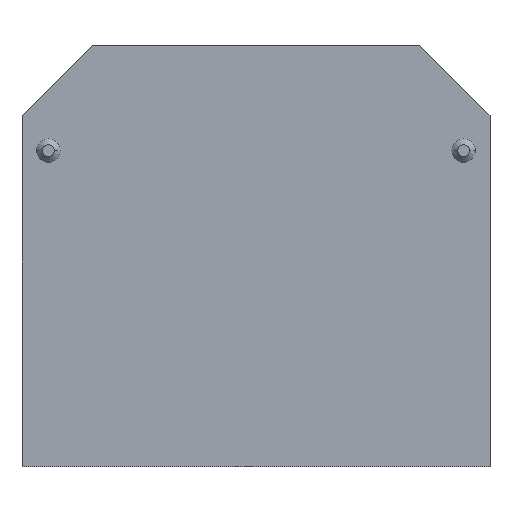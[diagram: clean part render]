
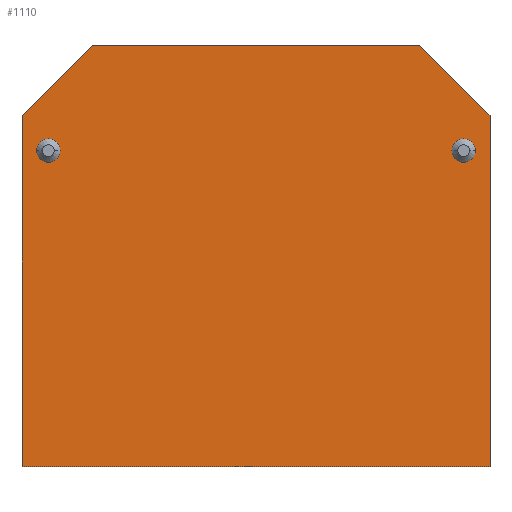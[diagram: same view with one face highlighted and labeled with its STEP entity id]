
A CAD part, top view. The second image highlights one B-rep face of the part: STEP entity #1110.
In plain terms, the highlighted planar face has unit normal (0, 0, 1).
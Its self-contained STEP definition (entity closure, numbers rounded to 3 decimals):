
#1110 = ADVANCED_FACE('',(#1111,#1160,#1204),#1126,.F.);
#1111 = FACE_BOUND('',#1112,.T.);
#1112 = EDGE_LOOP('',(#1113,#1141));
#1113 = ORIENTED_EDGE('',*,*,#1114,.F.);
#1114 = EDGE_CURVE('',#1115,#1117,#1119,.T.);
#1115 = VERTEX_POINT('',#1116);
#1116 = CARTESIAN_POINT('',(16.75,9.,1.5));
#1117 = VERTEX_POINT('',#1118);
#1118 = CARTESIAN_POINT('',(18.75,9.,1.5));
#1119 = SURFACE_CURVE('',#1120,(#1125),.PCURVE_S1.);
#1120 = CIRCLE('',#1121,1.);
#1121 = AXIS2_PLACEMENT_3D('',#1122,#1123,#1124);
#1122 = CARTESIAN_POINT('',(17.75,9.,1.5));
#1123 = DIRECTION('',(0.,0.,1.));
#1124 = DIRECTION('',(-1.,0.,0.));
#1125 = PCURVE('',#1126,#1131);
#1126 = PLANE('',#1127);
#1127 = AXIS2_PLACEMENT_3D('',#1128,#1129,#1130);
#1128 = CARTESIAN_POINT('',(0.,0.,1.5));
#1129 = DIRECTION('',(0.,0.,-1.));
#1130 = DIRECTION('',(-1.,0.,0.));
#1131 = DEFINITIONAL_REPRESENTATION('',(#1132),#1140);
#1132 = ( BOUNDED_CURVE() B_SPLINE_CURVE(2,(#1133,#1134,#1135,#1136,
#1137,#1138,#1139),.UNSPECIFIED.,.T.,.F.) B_SPLINE_CURVE_WITH_KNOTS((1,2
    ,2,2,2,1),(-2.094,0.,2.094,4.189,
6.283,8.378),.UNSPECIFIED.) CURVE() 
GEOMETRIC_REPRESENTATION_ITEM() RATIONAL_B_SPLINE_CURVE((1.,0.5,1.,0.5,
1.,0.5,1.)) REPRESENTATION_ITEM('') );
#1133 = CARTESIAN_POINT('',(-16.75,9.));
#1134 = CARTESIAN_POINT('',(-16.75,7.268));
#1135 = CARTESIAN_POINT('',(-18.25,8.134));
#1136 = CARTESIAN_POINT('',(-19.75,9.));
#1137 = CARTESIAN_POINT('',(-18.25,9.866));
#1138 = CARTESIAN_POINT('',(-16.75,10.732));
#1139 = CARTESIAN_POINT('',(-16.75,9.));
#1140 = ( GEOMETRIC_REPRESENTATION_CONTEXT(2) 
PARAMETRIC_REPRESENTATION_CONTEXT() REPRESENTATION_CONTEXT('2D SPACE',''
  ) );
#1141 = ORIENTED_EDGE('',*,*,#1142,.F.);
#1142 = EDGE_CURVE('',#1117,#1115,#1143,.T.);
#1143 = SURFACE_CURVE('',#1144,(#1149),.PCURVE_S1.);
#1144 = CIRCLE('',#1145,1.);
#1145 = AXIS2_PLACEMENT_3D('',#1146,#1147,#1148);
#1146 = CARTESIAN_POINT('',(17.75,9.,1.5));
#1147 = DIRECTION('',(0.,0.,1.));
#1148 = DIRECTION('',(-1.,0.,0.));
#1149 = PCURVE('',#1126,#1150);
#1150 = DEFINITIONAL_REPRESENTATION('',(#1151),#1159);
#1151 = ( BOUNDED_CURVE() B_SPLINE_CURVE(2,(#1152,#1153,#1154,#1155,
#1156,#1157,#1158),.UNSPECIFIED.,.T.,.F.) B_SPLINE_CURVE_WITH_KNOTS((1,2
    ,2,2,2,1),(-2.094,0.,2.094,4.189,
6.283,8.378),.UNSPECIFIED.) CURVE() 
GEOMETRIC_REPRESENTATION_ITEM() RATIONAL_B_SPLINE_CURVE((1.,0.5,1.,0.5,
1.,0.5,1.)) REPRESENTATION_ITEM('') );
#1152 = CARTESIAN_POINT('',(-16.75,9.));
#1153 = CARTESIAN_POINT('',(-16.75,7.268));
#1154 = CARTESIAN_POINT('',(-18.25,8.134));
#1155 = CARTESIAN_POINT('',(-19.75,9.));
#1156 = CARTESIAN_POINT('',(-18.25,9.866));
#1157 = CARTESIAN_POINT('',(-16.75,10.732));
#1158 = CARTESIAN_POINT('',(-16.75,9.));
#1159 = ( GEOMETRIC_REPRESENTATION_CONTEXT(2) 
PARAMETRIC_REPRESENTATION_CONTEXT() REPRESENTATION_CONTEXT('2D SPACE',''
  ) );
#1160 = FACE_BOUND('',#1161,.T.);
#1161 = EDGE_LOOP('',(#1162,#1185));
#1162 = ORIENTED_EDGE('',*,*,#1163,.F.);
#1163 = EDGE_CURVE('',#1164,#1166,#1168,.T.);
#1164 = VERTEX_POINT('',#1165);
#1165 = CARTESIAN_POINT('',(-18.75,9.,1.5));
#1166 = VERTEX_POINT('',#1167);
#1167 = CARTESIAN_POINT('',(-16.75,9.,1.5));
#1168 = SURFACE_CURVE('',#1169,(#1174),.PCURVE_S1.);
#1169 = CIRCLE('',#1170,1.);
#1170 = AXIS2_PLACEMENT_3D('',#1171,#1172,#1173);
#1171 = CARTESIAN_POINT('',(-17.75,9.,1.5));
#1172 = DIRECTION('',(0.,0.,1.));
#1173 = DIRECTION('',(-1.,0.,0.));
#1174 = PCURVE('',#1126,#1175);
#1175 = DEFINITIONAL_REPRESENTATION('',(#1176),#1184);
#1176 = ( BOUNDED_CURVE() B_SPLINE_CURVE(2,(#1177,#1178,#1179,#1180,
#1181,#1182,#1183),.UNSPECIFIED.,.T.,.F.) B_SPLINE_CURVE_WITH_KNOTS((1,2
    ,2,2,2,1),(-2.094,0.,2.094,4.189,
6.283,8.378),.UNSPECIFIED.) CURVE() 
GEOMETRIC_REPRESENTATION_ITEM() RATIONAL_B_SPLINE_CURVE((1.,0.5,1.,0.5,
1.,0.5,1.)) REPRESENTATION_ITEM('') );
#1177 = CARTESIAN_POINT('',(18.75,9.));
#1178 = CARTESIAN_POINT('',(18.75,7.268));
#1179 = CARTESIAN_POINT('',(17.25,8.134));
#1180 = CARTESIAN_POINT('',(15.75,9.));
#1181 = CARTESIAN_POINT('',(17.25,9.866));
#1182 = CARTESIAN_POINT('',(18.75,10.732));
#1183 = CARTESIAN_POINT('',(18.75,9.));
#1184 = ( GEOMETRIC_REPRESENTATION_CONTEXT(2) 
PARAMETRIC_REPRESENTATION_CONTEXT() REPRESENTATION_CONTEXT('2D SPACE',''
  ) );
#1185 = ORIENTED_EDGE('',*,*,#1186,.F.);
#1186 = EDGE_CURVE('',#1166,#1164,#1187,.T.);
#1187 = SURFACE_CURVE('',#1188,(#1193),.PCURVE_S1.);
#1188 = CIRCLE('',#1189,1.);
#1189 = AXIS2_PLACEMENT_3D('',#1190,#1191,#1192);
#1190 = CARTESIAN_POINT('',(-17.75,9.,1.5));
#1191 = DIRECTION('',(0.,0.,1.));
#1192 = DIRECTION('',(-1.,0.,0.));
#1193 = PCURVE('',#1126,#1194);
#1194 = DEFINITIONAL_REPRESENTATION('',(#1195),#1203);
#1195 = ( BOUNDED_CURVE() B_SPLINE_CURVE(2,(#1196,#1197,#1198,#1199,
#1200,#1201,#1202),.UNSPECIFIED.,.T.,.F.) B_SPLINE_CURVE_WITH_KNOTS((1,2
    ,2,2,2,1),(-2.094,0.,2.094,4.189,
6.283,8.378),.UNSPECIFIED.) CURVE() 
GEOMETRIC_REPRESENTATION_ITEM() RATIONAL_B_SPLINE_CURVE((1.,0.5,1.,0.5,
1.,0.5,1.)) REPRESENTATION_ITEM('') );
#1196 = CARTESIAN_POINT('',(18.75,9.));
#1197 = CARTESIAN_POINT('',(18.75,7.268));
#1198 = CARTESIAN_POINT('',(17.25,8.134));
#1199 = CARTESIAN_POINT('',(15.75,9.));
#1200 = CARTESIAN_POINT('',(17.25,9.866));
#1201 = CARTESIAN_POINT('',(18.75,10.732));
#1202 = CARTESIAN_POINT('',(18.75,9.));
#1203 = ( GEOMETRIC_REPRESENTATION_CONTEXT(2) 
PARAMETRIC_REPRESENTATION_CONTEXT() REPRESENTATION_CONTEXT('2D SPACE',''
  ) );
#1204 = FACE_BOUND('',#1205,.T.);
#1205 = EDGE_LOOP('',(#1206,#1224,#1240,#1256,#1272,#1288));
#1206 = ORIENTED_EDGE('',*,*,#1207,.T.);
#1207 = EDGE_CURVE('',#1208,#1210,#1212,.T.);
#1208 = VERTEX_POINT('',#1209);
#1209 = CARTESIAN_POINT('',(-20.,12.,1.5));
#1210 = VERTEX_POINT('',#1211);
#1211 = CARTESIAN_POINT('',(-20.,-18.,1.5));
#1212 = SURFACE_CURVE('',#1213,(#1217),.PCURVE_S1.);
#1213 = LINE('',#1214,#1215);
#1214 = CARTESIAN_POINT('',(-20.,-18.,1.5));
#1215 = VECTOR('',#1216,1.);
#1216 = DIRECTION('',(0.,-1.,0.));
#1217 = PCURVE('',#1126,#1218);
#1218 = DEFINITIONAL_REPRESENTATION('',(#1219),#1223);
#1219 = LINE('',#1220,#1221);
#1220 = CARTESIAN_POINT('',(20.,-18.));
#1221 = VECTOR('',#1222,1.);
#1222 = DIRECTION('',(0.,-1.));
#1223 = ( GEOMETRIC_REPRESENTATION_CONTEXT(2) 
PARAMETRIC_REPRESENTATION_CONTEXT() REPRESENTATION_CONTEXT('2D SPACE',''
  ) );
#1224 = ORIENTED_EDGE('',*,*,#1225,.T.);
#1225 = EDGE_CURVE('',#1210,#1226,#1228,.T.);
#1226 = VERTEX_POINT('',#1227);
#1227 = CARTESIAN_POINT('',(20.,-18.,1.5));
#1228 = SURFACE_CURVE('',#1229,(#1233),.PCURVE_S1.);
#1229 = LINE('',#1230,#1231);
#1230 = CARTESIAN_POINT('',(-20.,-18.,1.5));
#1231 = VECTOR('',#1232,1.);
#1232 = DIRECTION('',(1.,0.,0.));
#1233 = PCURVE('',#1126,#1234);
#1234 = DEFINITIONAL_REPRESENTATION('',(#1235),#1239);
#1235 = LINE('',#1236,#1237);
#1236 = CARTESIAN_POINT('',(20.,-18.));
#1237 = VECTOR('',#1238,1.);
#1238 = DIRECTION('',(-1.,0.));
#1239 = ( GEOMETRIC_REPRESENTATION_CONTEXT(2) 
PARAMETRIC_REPRESENTATION_CONTEXT() REPRESENTATION_CONTEXT('2D SPACE',''
  ) );
#1240 = ORIENTED_EDGE('',*,*,#1241,.T.);
#1241 = EDGE_CURVE('',#1226,#1242,#1244,.T.);
#1242 = VERTEX_POINT('',#1243);
#1243 = CARTESIAN_POINT('',(20.,12.,1.5));
#1244 = SURFACE_CURVE('',#1245,(#1249),.PCURVE_S1.);
#1245 = LINE('',#1246,#1247);
#1246 = CARTESIAN_POINT('',(20.,-18.,1.5));
#1247 = VECTOR('',#1248,1.);
#1248 = DIRECTION('',(0.,1.,0.));
#1249 = PCURVE('',#1126,#1250);
#1250 = DEFINITIONAL_REPRESENTATION('',(#1251),#1255);
#1251 = LINE('',#1252,#1253);
#1252 = CARTESIAN_POINT('',(-20.,-18.));
#1253 = VECTOR('',#1254,1.);
#1254 = DIRECTION('',(0.,1.));
#1255 = ( GEOMETRIC_REPRESENTATION_CONTEXT(2) 
PARAMETRIC_REPRESENTATION_CONTEXT() REPRESENTATION_CONTEXT('2D SPACE',''
  ) );
#1256 = ORIENTED_EDGE('',*,*,#1257,.T.);
#1257 = EDGE_CURVE('',#1242,#1258,#1260,.T.);
#1258 = VERTEX_POINT('',#1259);
#1259 = CARTESIAN_POINT('',(14.,18.,1.5));
#1260 = SURFACE_CURVE('',#1261,(#1265),.PCURVE_S1.);
#1261 = LINE('',#1262,#1263);
#1262 = CARTESIAN_POINT('',(14.,18.,1.5));
#1263 = VECTOR('',#1264,1.);
#1264 = DIRECTION('',(-0.707,0.707,0.));
#1265 = PCURVE('',#1126,#1266);
#1266 = DEFINITIONAL_REPRESENTATION('',(#1267),#1271);
#1267 = LINE('',#1268,#1269);
#1268 = CARTESIAN_POINT('',(-14.,18.));
#1269 = VECTOR('',#1270,1.);
#1270 = DIRECTION('',(0.707,0.707));
#1271 = ( GEOMETRIC_REPRESENTATION_CONTEXT(2) 
PARAMETRIC_REPRESENTATION_CONTEXT() REPRESENTATION_CONTEXT('2D SPACE',''
  ) );
#1272 = ORIENTED_EDGE('',*,*,#1273,.T.);
#1273 = EDGE_CURVE('',#1258,#1274,#1276,.T.);
#1274 = VERTEX_POINT('',#1275);
#1275 = CARTESIAN_POINT('',(-14.,18.,1.5));
#1276 = SURFACE_CURVE('',#1277,(#1281),.PCURVE_S1.);
#1277 = LINE('',#1278,#1279);
#1278 = CARTESIAN_POINT('',(-14.,18.,1.5));
#1279 = VECTOR('',#1280,1.);
#1280 = DIRECTION('',(-1.,0.,0.));
#1281 = PCURVE('',#1126,#1282);
#1282 = DEFINITIONAL_REPRESENTATION('',(#1283),#1287);
#1283 = LINE('',#1284,#1285);
#1284 = CARTESIAN_POINT('',(14.,18.));
#1285 = VECTOR('',#1286,1.);
#1286 = DIRECTION('',(1.,0.));
#1287 = ( GEOMETRIC_REPRESENTATION_CONTEXT(2) 
PARAMETRIC_REPRESENTATION_CONTEXT() REPRESENTATION_CONTEXT('2D SPACE',''
  ) );
#1288 = ORIENTED_EDGE('',*,*,#1289,.T.);
#1289 = EDGE_CURVE('',#1274,#1208,#1290,.T.);
#1290 = SURFACE_CURVE('',#1291,(#1295),.PCURVE_S1.);
#1291 = LINE('',#1292,#1293);
#1292 = CARTESIAN_POINT('',(-20.,12.,1.5));
#1293 = VECTOR('',#1294,1.);
#1294 = DIRECTION('',(-0.707,-0.707,0.));
#1295 = PCURVE('',#1126,#1296);
#1296 = DEFINITIONAL_REPRESENTATION('',(#1297),#1301);
#1297 = LINE('',#1298,#1299);
#1298 = CARTESIAN_POINT('',(20.,12.));
#1299 = VECTOR('',#1300,1.);
#1300 = DIRECTION('',(0.707,-0.707));
#1301 = ( GEOMETRIC_REPRESENTATION_CONTEXT(2) 
PARAMETRIC_REPRESENTATION_CONTEXT() REPRESENTATION_CONTEXT('2D SPACE',''
  ) );
